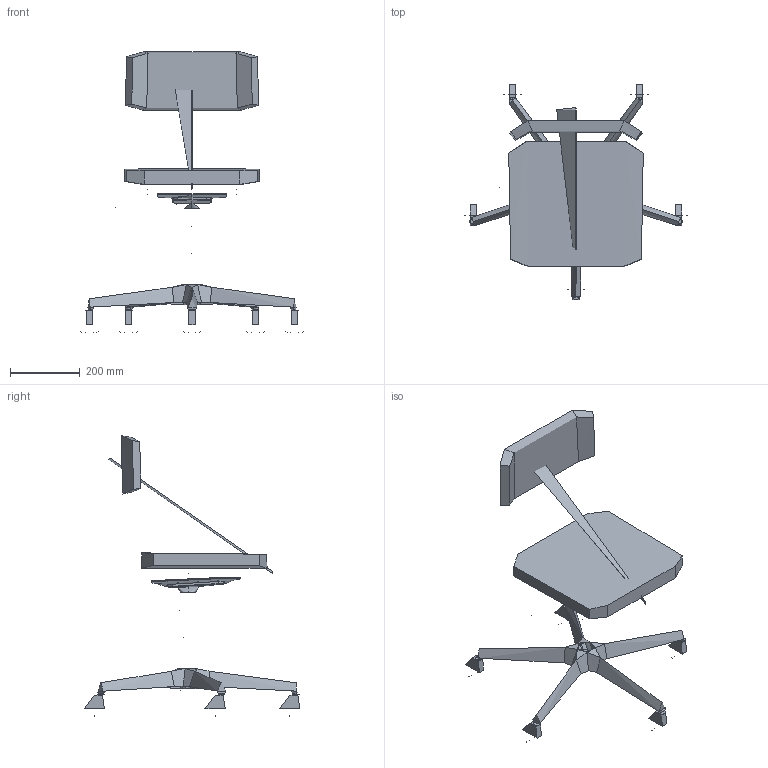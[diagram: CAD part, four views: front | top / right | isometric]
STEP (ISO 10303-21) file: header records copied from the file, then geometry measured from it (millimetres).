
FILE_DESCRIPTION(/* description */ (''),/* implementation_level */ '2;1');
FILE_NAME(/* name */ 'ZOE 220-BL',/* time_stamp */ '2023-05-17T08:31:56+02:00',/* author */ (''),/* organization */ (''),/* preprocessor_version */ 'ST-DEVELOPER v16.5',/* originating_system */ 'Rhino 7.29',/* authorisation */ '');
FILE_SCHEMA (('CONFIG_CONTROL_DESIGN'));
Length unit declared in the file: millimetre
Products named in the file (1): Document
Bounding box: 639.65 x 618.72 x 805.24 mm (x, y, z)
Volume: 14436136.5 mm3; surface area: 1543410.6 mm2
Topology: 14 solids, 43 shells, 313 faces, 696 edges, 425 vertices
Faces by surface type: plane 136, bspline 125, cylinder 52
Full cylindrical faces by diameter (mm): 8 x1, 11 x5, 22 x2, 28 x1, 46 x1, 50 x1, 60 x10
Entity records: 22981 total; most frequent: CARTESIAN_POINT 18327, ORIENTED_EDGE 1291, EDGE_CURVE 698, B_SPLINE_CURVE_WITH_KNOTS 440, VERTEX_POINT 428, EDGE_LOOP 318, ADVANCED_FACE 313, FACE_OUTER_BOUND 313
